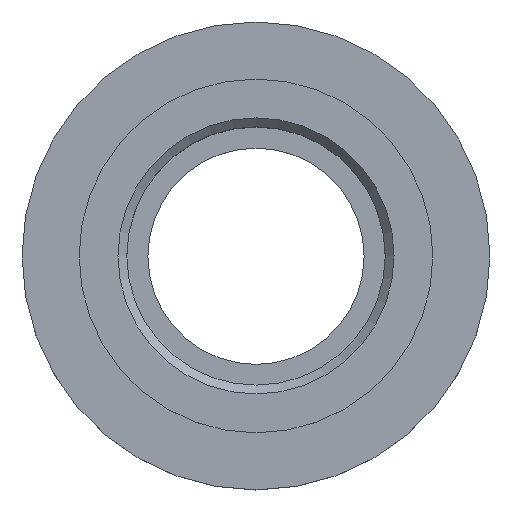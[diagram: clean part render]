
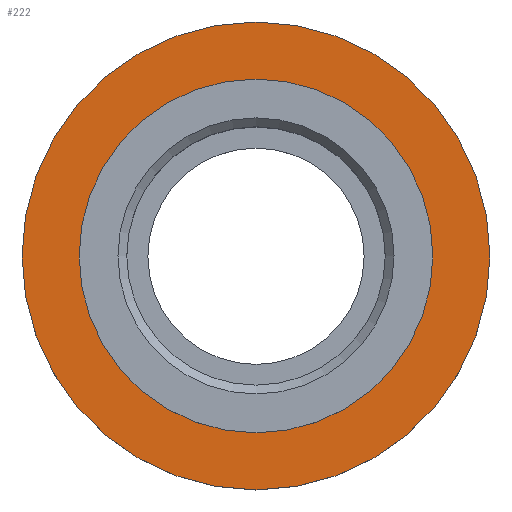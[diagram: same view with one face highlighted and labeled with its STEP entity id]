
A CAD part, top view. The second image highlights one B-rep face of the part: STEP entity #222.
In plain terms, the highlighted planar face has unit normal (0, 0, 1).
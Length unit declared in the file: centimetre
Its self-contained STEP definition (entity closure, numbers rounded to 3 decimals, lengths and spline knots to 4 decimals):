
#108=PLANE('',#243);
#123=VERTEX_POINT('',#274);
#124=VERTEX_POINT('',#277);
#134=CIRCLE('',#242,18.5);
#135=CIRCLE('',#244,13.9875);
#145=EDGE_CURVE('',#123,#123,#134,.T.);
#146=EDGE_CURVE('',#124,#124,#135,.T.);
#165=ORIENTED_EDGE('',*,*,#146,.F.);
#166=ORIENTED_EDGE('',*,*,#145,.T.);
#187=EDGE_LOOP('',(#165));
#188=EDGE_LOOP('',(#166));
#209=FACE_BOUND('',#187,.T.);
#210=FACE_BOUND('',#188,.T.);
#222=ADVANCED_FACE('',(#209,#210),#108,.T.);
#242=AXIS2_PLACEMENT_3D('',#273,#311,#312);
#243=AXIS2_PLACEMENT_3D('',#275,#313,$);
#244=AXIS2_PLACEMENT_3D('',#276,#314,#315);
#273=CARTESIAN_POINT('',(0.,0.,-1.));
#274=CARTESIAN_POINT('',(0.,18.5,-1.));
#275=CARTESIAN_POINT('',(0.,16.2438,-1.));
#276=CARTESIAN_POINT('',(0.,0.,-1.));
#277=CARTESIAN_POINT('',(0.,13.9875,-1.));
#311=DIRECTION('',(0.,0.,1.));
#312=DIRECTION('',(0.,18.5,0.));
#313=DIRECTION('',(0.,0.,1.));
#314=DIRECTION('',(0.,0.,1.));
#315=DIRECTION('',(0.,13.988,0.));
